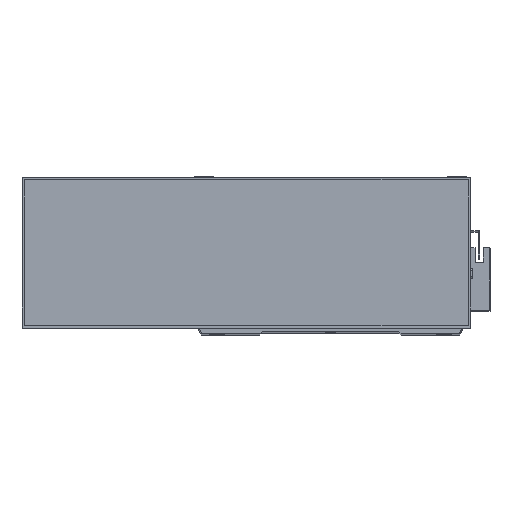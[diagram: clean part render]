
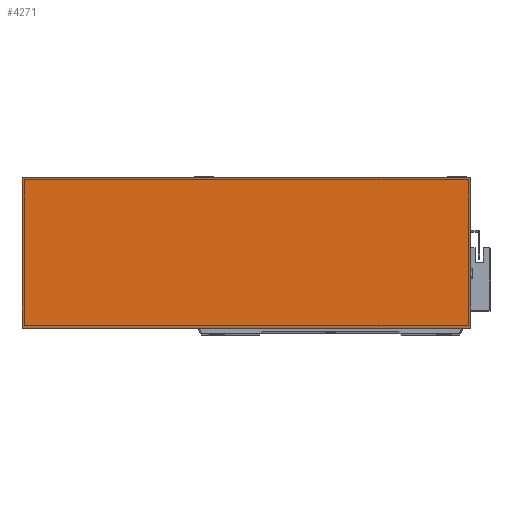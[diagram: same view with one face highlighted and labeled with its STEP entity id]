
A CAD part, top view. The second image highlights one B-rep face of the part: STEP entity #4271.
In plain terms, the highlighted planar face has unit normal (0, 0, 1).
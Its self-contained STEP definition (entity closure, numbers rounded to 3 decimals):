
#632 = PLANE ( 'NONE',  #2614 ) ;
#1552 = ORIENTED_EDGE ( 'NONE', *, *, #15467, .T. ) ;
#2505 = CARTESIAN_POINT ( 'NONE',  ( 277., 0., 50. ) ) ;
#2614 = AXIS2_PLACEMENT_3D ( 'NONE', #15412, #17535, #4866 ) ;
#3091 = CARTESIAN_POINT ( 'NONE',  ( 0., 93., 50. ) ) ;
#4224 = ORIENTED_EDGE ( 'NONE', *, *, #9114, .T. ) ;
#4271 = ADVANCED_FACE ( 'NONE', ( #22695 ), #632, .F. ) ;
#4866 = DIRECTION ( 'NONE',  ( -1., 0., 0. ) ) ;
#5085 = VERTEX_POINT ( 'NONE', #2505 ) ;
#5275 = VECTOR ( 'NONE', #14946, 1000. ) ;
#6541 = VERTEX_POINT ( 'NONE', #8543 ) ;
#8543 = CARTESIAN_POINT ( 'NONE',  ( 277., 93., 50. ) ) ;
#9114 = EDGE_CURVE ( 'NONE', #5085, #6541, #27134, .T. ) ;
#9853 = DIRECTION ( 'NONE',  ( 1., 0., 0. ) ) ;
#11284 = VECTOR ( 'NONE', #9853, 1000. ) ;
#11398 = CARTESIAN_POINT ( 'NONE',  ( 277., 0., 50. ) ) ;
#11530 = CARTESIAN_POINT ( 'NONE',  ( 0., 0., 50. ) ) ;
#12252 = EDGE_CURVE ( 'NONE', #6541, #13047, #25818, .T. ) ;
#12847 = CARTESIAN_POINT ( 'NONE',  ( 0., 0., 50. ) ) ;
#13047 = VERTEX_POINT ( 'NONE', #3091 ) ;
#13511 = DIRECTION ( 'NONE',  ( 0., 1., 0. ) ) ;
#14946 = DIRECTION ( 'NONE',  ( 0., -1., 0. ) ) ;
#15113 = DIRECTION ( 'NONE',  ( -1., 0., 0. ) ) ;
#15412 = CARTESIAN_POINT ( 'NONE',  ( 0., 0., 50. ) ) ;
#15467 = EDGE_CURVE ( 'NONE', #13047, #18123, #22176, .T. ) ;
#16685 = EDGE_LOOP ( 'NONE', ( #1552, #22770, #4224, #27406 ) ) ;
#17535 = DIRECTION ( 'NONE',  ( 0., 0., -1. ) ) ;
#17580 = LINE ( 'NONE', #24699, #11284 ) ;
#18123 = VERTEX_POINT ( 'NONE', #11530 ) ;
#19391 = CARTESIAN_POINT ( 'NONE',  ( 0., 93., 50. ) ) ;
#21413 = VECTOR ( 'NONE', #13511, 1000. ) ;
#22176 = LINE ( 'NONE', #12847, #5275 ) ;
#22695 = FACE_OUTER_BOUND ( 'NONE', #16685, .T. ) ;
#22770 = ORIENTED_EDGE ( 'NONE', *, *, #26248, .T. ) ;
#24699 = CARTESIAN_POINT ( 'NONE',  ( 0., 0., 50. ) ) ;
#25143 = VECTOR ( 'NONE', #15113, 1000. ) ;
#25818 = LINE ( 'NONE', #19391, #25143 ) ;
#26248 = EDGE_CURVE ( 'NONE', #18123, #5085, #17580, .T. ) ;
#27134 = LINE ( 'NONE', #11398, #21413 ) ;
#27406 = ORIENTED_EDGE ( 'NONE', *, *, #12252, .T. ) ;
